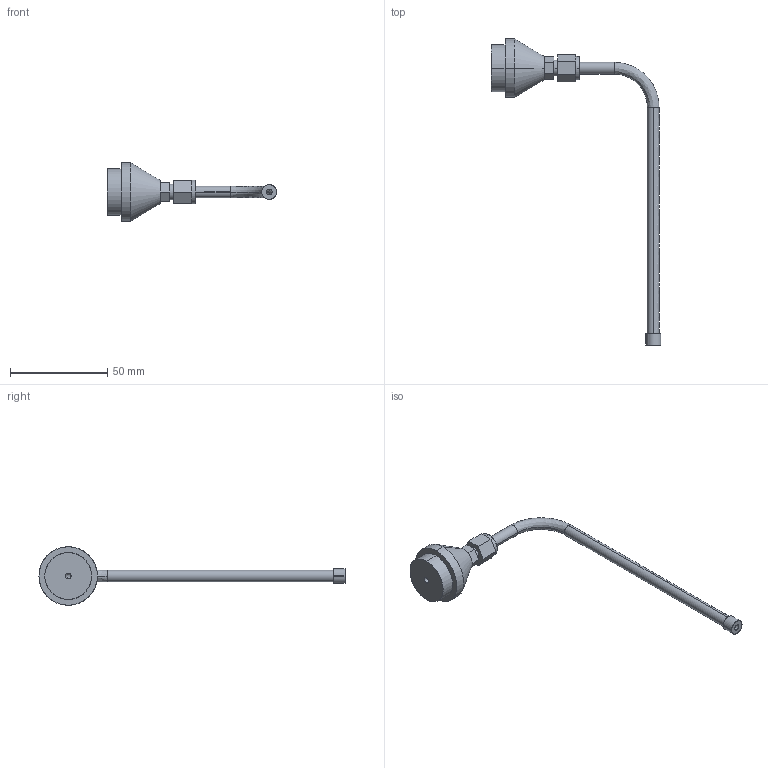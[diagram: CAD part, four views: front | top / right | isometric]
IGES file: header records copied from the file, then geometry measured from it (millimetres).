
Start section: SolidWorks IGES FILE using analytic representation for surfaces
Global section: file name: \\intra-srv04\開発データ\CAD_Data\CAD委員会\3D電子ｶﾀﾛｸﾞ\製品カタログ（新）\0_IGES\ER-AL10.IGS,41HSolidWorks 2004; native system: by SolidWorks Corporation; preprocessor: Version 5.3; author: yk0651; date: 050908.145159; units: millimetre
Bounding box: 86.8 x 157 x 30 mm (x, y, z)
Surface area: 9162.9 mm2 (no closed solid volume)
Topology: 0 solids, 0 shells, 83 faces, 1286 edges, 1286 vertices
Faces by surface type: revolution 42, bspline 41
